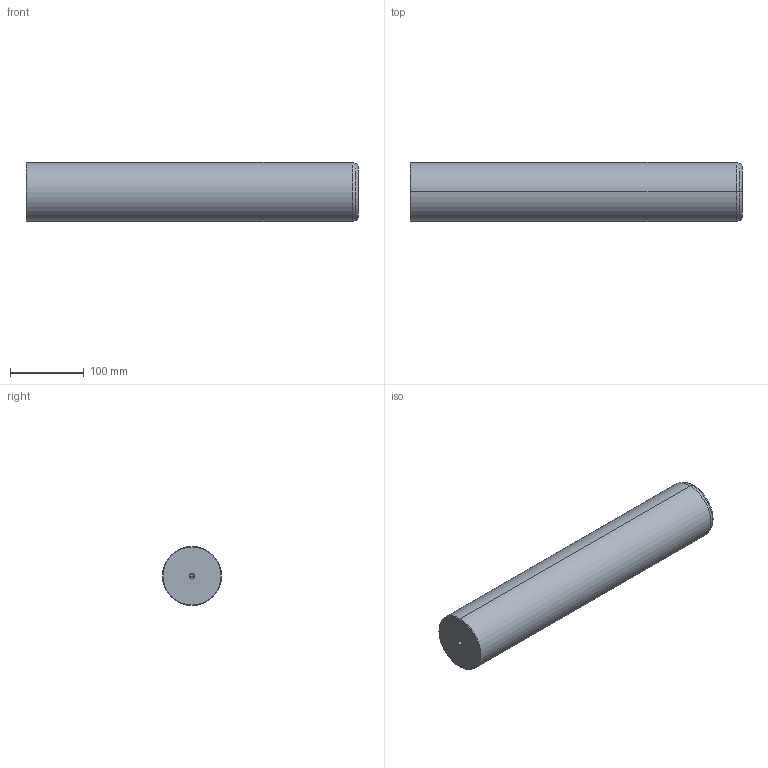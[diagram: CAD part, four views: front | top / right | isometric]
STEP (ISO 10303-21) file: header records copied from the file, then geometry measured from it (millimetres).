
FILE_DESCRIPTION(('CATIA V5 STEP Exchange'),'2;1');
FILE_NAME('C:\Users\Utente\Desktop\IO LAVORO\3D X SITO CF\X SITO\720\720-80x450.stp','2020-12-30T21:20:54+00:00',('none'),('none'),'CATIA Version 5 Release 20 GA (IN-10)','CATIA V5 STEP AP203','none');
FILE_SCHEMA(('CONFIG_CONTROL_DESIGN'));
Length unit declared in the file: millimetre
Products named in the file (1): 720-80x450
Bounding box: 450 x 80 x 80 mm (x, y, z)
Volume: 2257377.6 mm3; surface area: 123256.3 mm2
Topology: 1 solids, 1 shells, 22 faces, 62 edges, 40 vertices
Faces by surface type: cone 12, cylinder 6, plane 2, torus 2
Entity records: 806 total; most frequent: CARTESIAN_POINT 229, ORIENTED_EDGE 116, DIRECTION 93, EDGE_CURVE 58, AXIS2_PLACEMENT_3D 54, VERTEX_POINT 40, CIRCLE 31, EDGE_LOOP 24
